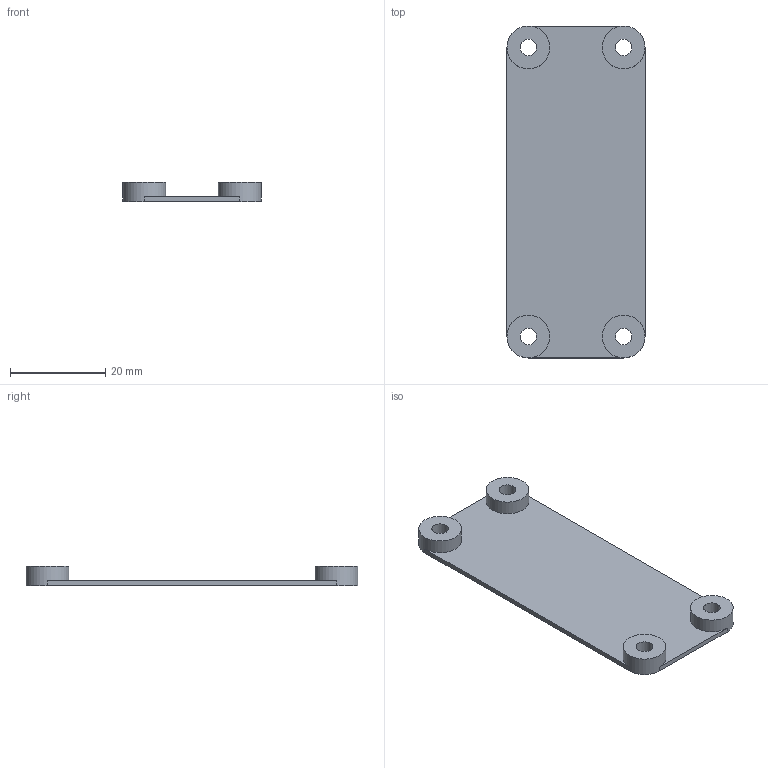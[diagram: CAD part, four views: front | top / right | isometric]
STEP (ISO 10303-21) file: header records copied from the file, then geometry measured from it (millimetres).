
FILE_DESCRIPTION(/* description */ (''),/* implementation_level */ '2;1');
FILE_NAME(/* name */ 'D:\3D печать\Мои проекты\Archy MK 2\STEP\крепление модуля DET.stp',/* time_stamp */ '2019-03-20T22:14:14+06:00',/* author */ ('Пользователь'),/* organization */ (''),/* preprocessor_version */ 'ST-DEVELOPER v16.5',/* originating_system */ 'Autodesk Inventor 2017',/* authorisation */ '');
FILE_SCHEMA (('AUTOMOTIVE_DESIGN { 1 0 10303 214 3 1 1 }'));
Length unit declared in the file: millimetre
Products named in the file (1): крепление \X2\043C043E
04340443043B044F\X0\ DET
Bounding box: 29 x 69.7 x 4 mm (x, y, z)
Volume: 2613.4 mm3; surface area: 4635.8 mm2
Topology: 1 solids, 1 shells, 18 faces, 50 edges, 34 vertices
Faces by surface type: plane 10, cylinder 8
Full cylindrical faces by diameter (mm): 3.5 x4, 9 x4
Entity records: 536 total; most frequent: DIRECTION 94, CARTESIAN_POINT 83, ORIENTED_EDGE 72, AXIS2_PLACEMENT_3D 39, EDGE_CURVE 36, EDGE_LOOP 34, VERTEX_POINT 28, CIRCLE 20
